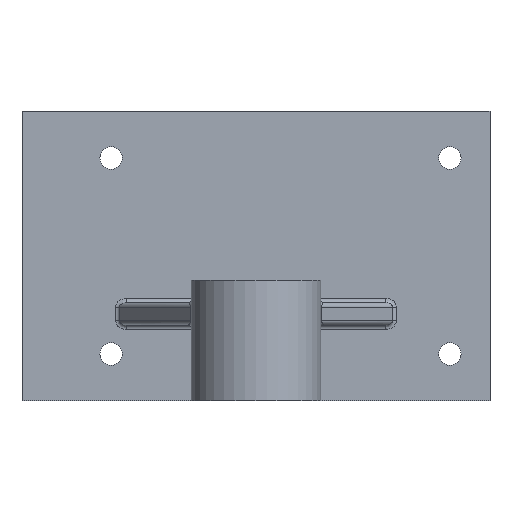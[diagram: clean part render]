
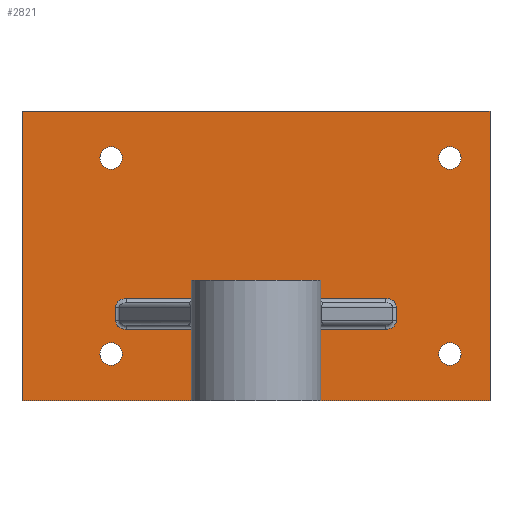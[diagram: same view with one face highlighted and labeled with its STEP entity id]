
A CAD part, top view. The second image highlights one B-rep face of the part: STEP entity #2821.
In plain terms, the highlighted planar face has unit normal (0, 0, 1).
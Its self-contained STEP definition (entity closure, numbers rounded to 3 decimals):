
#150=CARTESIAN_POINT('',(-68.451,-29.0,13.0));
#151=VERTEX_POINT('',#150);
#159=CARTESIAN_POINT('',(-63.568,-33.0,13.0));
#160=VERTEX_POINT('',#159);
#161=CARTESIAN_POINT('',(-63.568,-29.0,13.0));
#162=DIRECTION('',(0.0,0.0,1.0));
#163=DIRECTION('',(-1.0,0.0,0.0));
#164=AXIS2_PLACEMENT_3D('',#161,#162,#163);
#165=ELLIPSE('',#164,4.883,4.);
#166=EDGE_CURVE('',#151,#160,#165,.T.);
#449=CARTESIAN_POINT('',(-63.568,-19.0,13.0));
#450=VERTEX_POINT('',#449);
#451=CARTESIAN_POINT('',(-68.451,-23.,13.0));
#452=VERTEX_POINT('',#451);
#453=CARTESIAN_POINT('',(-63.568,-23.,13.0));
#454=DIRECTION('',(0.0,0.0,1.0));
#455=DIRECTION('',(-1.0,0.0,0.0));
#456=AXIS2_PLACEMENT_3D('',#453,#454,#455);
#457=ELLIPSE('',#456,4.883,4.);
#458=EDGE_CURVE('',#450,#452,#457,.T.);
#494=CARTESIAN_POINT('',(-68.451,-23.,13.0));
#495=DIRECTION('',(0.0,-1.0,0.0));
#496=VECTOR('',#495,6.);
#497=LINE('',#494,#496);
#498=EDGE_CURVE('',#452,#151,#497,.T.);
#766=CARTESIAN_POINT('',(57.451,-23.,13.0));
#767=VERTEX_POINT('',#766);
#775=CARTESIAN_POINT('',(52.568,-19.0,13.0));
#776=VERTEX_POINT('',#775);
#777=CARTESIAN_POINT('',(52.568,-23.,13.0));
#778=DIRECTION('',(0.0,0.0,1.0));
#779=DIRECTION('',(1.0,0.0,0.0));
#780=AXIS2_PLACEMENT_3D('',#777,#778,#779);
#781=ELLIPSE('',#780,4.883,4.);
#782=EDGE_CURVE('',#767,#776,#781,.T.);
#858=CARTESIAN_POINT('',(-13.5,-53.,13.0));
#859=VERTEX_POINT('',#858);
#867=CARTESIAN_POINT('',(-9.5,-57.,13.0));
#868=VERTEX_POINT('',#867);
#869=CARTESIAN_POINT('',(-9.5,-53.,13.0));
#870=DIRECTION('',(0.0,0.0,1.));
#871=DIRECTION('',(-0.707,-0.707,0.0));
#872=AXIS2_PLACEMENT_3D('',#869,#870,#871);
#873=CIRCLE('',#872,4.);
#874=EDGE_CURVE('',#859,#868,#873,.T.);
#1111=CARTESIAN_POINT('',(-13.5,-33.0,13.0));
#1112=VERTEX_POINT('',#1111);
#1145=CARTESIAN_POINT('',(-13.5,-33.0,13.0));
#1146=DIRECTION('',(0.0,-1.0,0.0));
#1147=VECTOR('',#1146,20.);
#1148=LINE('',#1145,#1147);
#1149=EDGE_CURVE('',#1112,#859,#1148,.T.);
#1318=CARTESIAN_POINT('',(-63.568,-33.0,13.0));
#1319=DIRECTION('',(1.0,0.0,0.0));
#1320=VECTOR('',#1319,50.068);
#1321=LINE('',#1318,#1320);
#1322=EDGE_CURVE('',#160,#1112,#1321,.T.);
#1663=CARTESIAN_POINT('',(52.568,-33.0,13.0));
#1664=VERTEX_POINT('',#1663);
#1665=CARTESIAN_POINT('',(57.451,-29.0,13.0));
#1666=VERTEX_POINT('',#1665);
#1667=CARTESIAN_POINT('',(52.568,-29.0,13.0));
#1668=DIRECTION('',(0.0,0.0,1.0));
#1669=DIRECTION('',(1.0,0.0,0.0));
#1670=AXIS2_PLACEMENT_3D('',#1667,#1668,#1669);
#1671=ELLIPSE('',#1670,4.883,4.);
#1672=EDGE_CURVE('',#1664,#1666,#1671,.T.);
#1708=CARTESIAN_POINT('',(57.451,-29.0,13.0));
#1709=DIRECTION('',(0.0,1.0,0.0));
#1710=VECTOR('',#1709,6.);
#1711=LINE('',#1708,#1710);
#1712=EDGE_CURVE('',#1666,#767,#1711,.T.);
#1777=CARTESIAN_POINT('',(-1.5,-57.,13.0));
#1778=VERTEX_POINT('',#1777);
#1779=CARTESIAN_POINT('',(2.5,-53.,13.0));
#1780=VERTEX_POINT('',#1779);
#1781=CARTESIAN_POINT('',(-1.5,-53.,13.0));
#1782=DIRECTION('',(0.0,0.0,1.0));
#1783=DIRECTION('',(0.707,-0.707,0.0));
#1784=AXIS2_PLACEMENT_3D('',#1781,#1782,#1783);
#1785=CIRCLE('',#1784,4.);
#1786=EDGE_CURVE('',#1778,#1780,#1785,.T.);
#2201=CARTESIAN_POINT('',(2.5,-33.0,13.0));
#2202=VERTEX_POINT('',#2201);
#2388=CARTESIAN_POINT('',(2.5,-53.,13.0));
#2389=DIRECTION('',(0.0,1.0,0.0));
#2390=VECTOR('',#2389,20.);
#2391=LINE('',#2388,#2390);
#2392=EDGE_CURVE('',#1780,#2202,#2391,.T.);
#2410=CARTESIAN_POINT('',(2.5,-33.0,13.0));
#2411=DIRECTION('',(1.0,0.0,0.0));
#2412=VECTOR('',#2411,50.068);
#2413=LINE('',#2410,#2412);
#2414=EDGE_CURVE('',#2202,#1664,#2413,.T.);
#2518=CARTESIAN_POINT('',(-9.5,-57.,13.0));
#2519=DIRECTION('',(1.0,0.0,0.0));
#2520=VECTOR('',#2519,8.);
#2521=LINE('',#2518,#2520);
#2522=EDGE_CURVE('',#868,#1778,#2521,.T.);
#2614=CARTESIAN_POINT('',(52.568,-19.0,13.0));
#2615=DIRECTION('',(-1.0,0.0,0.0));
#2616=VECTOR('',#2615,116.136);
#2617=LINE('',#2614,#2616);
#2618=EDGE_CURVE('',#776,#450,#2617,.T.);
#2722=CARTESIAN_POINT('',(-5.5,0.,13.0));
#2723=DIRECTION('',(0.0,0.0,1.0));
#2724=DIRECTION('',(1.0,0.0,0.0));
#2725=AXIS2_PLACEMENT_3D('',#2722,#2723,#2724);
#2726=PLANE('',#2725);
#2727=CARTESIAN_POINT('',(99.5,65.,13.0));
#2728=VERTEX_POINT('',#2727);
#2729=CARTESIAN_POINT('',(99.5,-65.0,13.0));
#2730=VERTEX_POINT('',#2729);
#2731=CARTESIAN_POINT('',(99.5,65.0,13.0));
#2732=DIRECTION('',(0.0,-1.0,0.0));
#2733=VECTOR('',#2732,130.0);
#2734=LINE('',#2731,#2733);
#2735=EDGE_CURVE('',#2728,#2730,#2734,.T.);
#2736=ORIENTED_EDGE('',*,*,#2735,.F.);
#2737=CARTESIAN_POINT('',(-110.5,65.,13.0));
#2738=VERTEX_POINT('',#2737);
#2739=CARTESIAN_POINT('',(-110.5,65.,13.0));
#2740=DIRECTION('',(1.0,0.0,0.0));
#2741=VECTOR('',#2740,210.0);
#2742=LINE('',#2739,#2741);
#2743=EDGE_CURVE('',#2738,#2728,#2742,.T.);
#2744=ORIENTED_EDGE('',*,*,#2743,.F.);
#2745=CARTESIAN_POINT('',(-110.5,-65.0,13.0));
#2746=VERTEX_POINT('',#2745);
#2747=CARTESIAN_POINT('',(-110.5,-65.,13.0));
#2748=DIRECTION('',(0.0,1.0,0.0));
#2749=VECTOR('',#2748,130.0);
#2750=LINE('',#2747,#2749);
#2751=EDGE_CURVE('',#2746,#2738,#2750,.T.);
#2752=ORIENTED_EDGE('',*,*,#2751,.F.);
#2753=CARTESIAN_POINT('',(99.5,-65.0,13.0));
#2754=DIRECTION('',(-1.0,0.0,0.0));
#2755=VECTOR('',#2754,210.);
#2756=LINE('',#2753,#2755);
#2757=EDGE_CURVE('',#2730,#2746,#2756,.T.);
#2758=ORIENTED_EDGE('',*,*,#2757,.F.);
#2759=EDGE_LOOP('',(#2736,#2744,#2752,#2758));
#2760=FACE_OUTER_BOUND('',#2759,.T.);
#2761=CARTESIAN_POINT('',(76.447,44.0,13.0));
#2762=VERTEX_POINT('',#2761);
#2763=CARTESIAN_POINT('',(81.5,44.0,13.0));
#2764=DIRECTION('',(0.0,0.0,-1.0));
#2765=DIRECTION('',(1.0,0.0,0.0));
#2766=AXIS2_PLACEMENT_3D('',#2763,#2764,#2765);
#2767=CIRCLE('',#2766,5.053);
#2768=EDGE_CURVE('',#2762,#2762,#2767,.T.);
#2769=ORIENTED_EDGE('',*,*,#2768,.T.);
#2770=EDGE_LOOP('',(#2769));
#2771=FACE_BOUND('',#2770,.T.);
#2772=CARTESIAN_POINT('',(76.447,-44.0,13.0));
#2773=VERTEX_POINT('',#2772);
#2774=CARTESIAN_POINT('',(81.5,-44.0,13.0));
#2775=DIRECTION('',(0.0,0.0,-1.0));
#2776=DIRECTION('',(1.0,0.0,0.0));
#2777=AXIS2_PLACEMENT_3D('',#2774,#2775,#2776);
#2778=CIRCLE('',#2777,5.053);
#2779=EDGE_CURVE('',#2773,#2773,#2778,.T.);
#2780=ORIENTED_EDGE('',*,*,#2779,.T.);
#2781=EDGE_LOOP('',(#2780));
#2782=FACE_BOUND('',#2781,.T.);
#2783=CARTESIAN_POINT('',(-75.553,44.0,13.0));
#2784=VERTEX_POINT('',#2783);
#2785=CARTESIAN_POINT('',(-70.5,44.0,13.0));
#2786=DIRECTION('',(0.0,0.0,-1.0));
#2787=DIRECTION('',(1.0,0.0,0.0));
#2788=AXIS2_PLACEMENT_3D('',#2785,#2786,#2787);
#2789=CIRCLE('',#2788,5.053);
#2790=EDGE_CURVE('',#2784,#2784,#2789,.T.);
#2791=ORIENTED_EDGE('',*,*,#2790,.T.);
#2792=EDGE_LOOP('',(#2791));
#2793=FACE_BOUND('',#2792,.T.);
#2794=CARTESIAN_POINT('',(-75.553,-44.0,13.0));
#2795=VERTEX_POINT('',#2794);
#2796=CARTESIAN_POINT('',(-70.5,-44.0,13.0));
#2797=DIRECTION('',(0.0,0.0,-1.0));
#2798=DIRECTION('',(1.0,0.0,0.0));
#2799=AXIS2_PLACEMENT_3D('',#2796,#2797,#2798);
#2800=CIRCLE('',#2799,5.053);
#2801=EDGE_CURVE('',#2795,#2795,#2800,.T.);
#2802=ORIENTED_EDGE('',*,*,#2801,.T.);
#2803=EDGE_LOOP('',(#2802));
#2804=FACE_BOUND('',#2803,.T.);
#2805=ORIENTED_EDGE('',*,*,#1786,.F.);
#2806=ORIENTED_EDGE('',*,*,#2522,.F.);
#2807=ORIENTED_EDGE('',*,*,#874,.F.);
#2808=ORIENTED_EDGE('',*,*,#1149,.F.);
#2809=ORIENTED_EDGE('',*,*,#1322,.F.);
#2810=ORIENTED_EDGE('',*,*,#166,.F.);
#2811=ORIENTED_EDGE('',*,*,#498,.F.);
#2812=ORIENTED_EDGE('',*,*,#458,.F.);
#2813=ORIENTED_EDGE('',*,*,#2618,.F.);
#2814=ORIENTED_EDGE('',*,*,#782,.F.);
#2815=ORIENTED_EDGE('',*,*,#1712,.F.);
#2816=ORIENTED_EDGE('',*,*,#1672,.F.);
#2817=ORIENTED_EDGE('',*,*,#2414,.F.);
#2818=ORIENTED_EDGE('',*,*,#2392,.F.);
#2819=EDGE_LOOP('',(#2805,#2806,#2807,#2808,#2809,#2810,#2811,#2812,#2813,#2814,#2815,#2816,#2817,#2818));
#2820=FACE_BOUND('',#2819,.T.);
#2821=ADVANCED_FACE('',(#2760,#2771,#2782,#2793,#2804,#2820),#2726,.T.);
